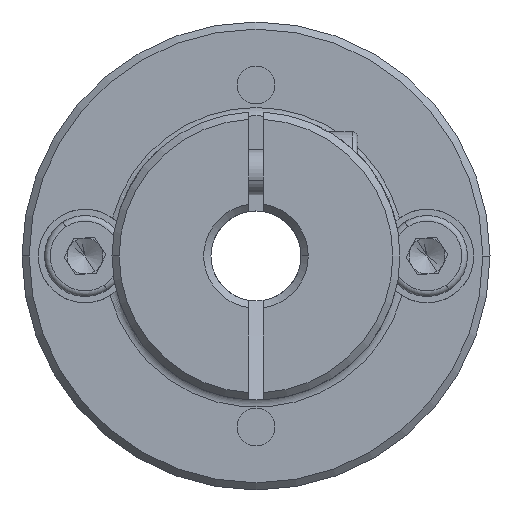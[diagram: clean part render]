
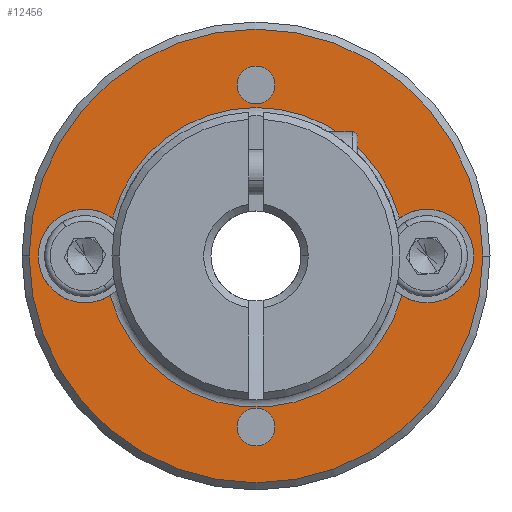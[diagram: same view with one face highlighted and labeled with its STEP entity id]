
A CAD part, front view. The second image highlights one B-rep face of the part: STEP entity #12456.
In plain terms, the highlighted planar face has unit normal (0, -1, 0).
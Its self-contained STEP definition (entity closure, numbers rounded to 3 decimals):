
#128 = EDGE_CURVE ( 'NONE', #3016, #7288, #11782, .T. ) ;
#269 = DIRECTION ( 'NONE',  ( 1., 0., 0. ) ) ;
#395 = DIRECTION ( 'NONE',  ( 0., -1., 0. ) ) ;
#399 = DIRECTION ( 'NONE',  ( 0., 1., 0. ) ) ;
#538 = CARTESIAN_POINT ( 'NONE',  ( 5.078, -8.355, 23.804 ) ) ;
#553 = EDGE_LOOP ( 'NONE', ( #15900, #5803 ) ) ;
#908 = CARTESIAN_POINT ( 'NONE',  ( -4.08, -8.355, 16.5 ) ) ;
#1057 = DIRECTION ( 'NONE',  ( 0., 1., 0. ) ) ;
#1079 = DIRECTION ( 'NONE',  ( 1., 0., 0. ) ) ;
#1279 = ORIENTED_EDGE ( 'NONE', *, *, #15649, .T. ) ;
#1469 = EDGE_CURVE ( 'NONE', #17752, #6324, #15438, .T. ) ;
#1863 = VERTEX_POINT ( 'NONE', #15807 ) ;
#1932 = ORIENTED_EDGE ( 'NONE', *, *, #6646, .T. ) ;
#2047 = DIRECTION ( 'NONE',  ( 0., 1., 0. ) ) ;
#2159 = VERTEX_POINT ( 'NONE', #538 ) ;
#2248 = CARTESIAN_POINT ( 'NONE',  ( 9.07, -8.355, 26. ) ) ;
#2447 = CARTESIAN_POINT ( 'NONE',  ( -4.08, -8.355, 35.5 ) ) ;
#2778 = FACE_BOUND ( 'NONE', #15605, .T. ) ;
#2877 = EDGE_LOOP ( 'NONE', ( #1279, #6520 ) ) ;
#2989 = DIRECTION ( 'NONE',  ( 1., 0., 0. ) ) ;
#3016 = VERTEX_POINT ( 'NONE', #11569 ) ;
#3415 = AXIS2_PLACEMENT_3D ( 'NONE', #5483, #6915, #14239 ) ;
#3435 = CARTESIAN_POINT ( 'NONE',  ( -3.03, -8.355, 26. ) ) ;
#3475 = AXIS2_PLACEMENT_3D ( 'NONE', #9654, #2047, #12585 ) ;
#3586 = CARTESIAN_POINT ( 'NONE',  ( 9.57, -8.355, 26. ) ) ;
#3635 = DIRECTION ( 'NONE',  ( 1., 0., 0. ) ) ;
#3686 = CARTESIAN_POINT ( 'NONE',  ( -15.63, -8.355, 26. ) ) ;
#4196 = VERTEX_POINT ( 'NONE', #3686 ) ;
#4202 = CARTESIAN_POINT ( 'NONE',  ( 6.47, -8.355, 26. ) ) ;
#4259 = CARTESIAN_POINT ( 'NONE',  ( -3.03, -8.355, 26. ) ) ;
#4297 = ORIENTED_EDGE ( 'NONE', *, *, #8902, .T. ) ;
#4447 = CIRCLE ( 'NONE', #3415, 1.05 ) ;
#4682 = VERTEX_POINT ( 'NONE', #3586 ) ;
#5170 = DIRECTION ( 'NONE',  ( 0., 1., 0. ) ) ;
#5330 = CARTESIAN_POINT ( 'NONE',  ( -3.03, -8.355, 26. ) ) ;
#5424 = EDGE_CURVE ( 'NONE', #16108, #17741, #4447, .T. ) ;
#5446 = DIRECTION ( 'NONE',  ( 1., 0., 0. ) ) ;
#5483 = CARTESIAN_POINT ( 'NONE',  ( -3.03, -8.355, 35.5 ) ) ;
#5562 = DIRECTION ( 'NONE',  ( 0., 1., 0. ) ) ;
#5729 = DIRECTION ( 'NONE',  ( 1., 0., 0. ) ) ;
#5750 = CARTESIAN_POINT ( 'NONE',  ( 6.47, -8.355, 26. ) ) ;
#5781 = DIRECTION ( 'NONE',  ( 0., 1., 0. ) ) ;
#5803 = ORIENTED_EDGE ( 'NONE', *, *, #18512, .T. ) ;
#6041 = AXIS2_PLACEMENT_3D ( 'NONE', #11081, #5170, #3635 ) ;
#6104 = ORIENTED_EDGE ( 'NONE', *, *, #1469, .T. ) ;
#6324 = VERTEX_POINT ( 'NONE', #2248 ) ;
#6520 = ORIENTED_EDGE ( 'NONE', *, *, #11391, .T. ) ;
#6646 = EDGE_CURVE ( 'NONE', #18264, #17752, #11796, .T. ) ;
#6737 = AXIS2_PLACEMENT_3D ( 'NONE', #4259, #7408, #8676 ) ;
#6915 = DIRECTION ( 'NONE',  ( 0., 1., 0. ) ) ;
#7288 = VERTEX_POINT ( 'NONE', #18268 ) ;
#7408 = DIRECTION ( 'NONE',  ( 0., -1., 0. ) ) ;
#7451 = ORIENTED_EDGE ( 'NONE', *, *, #16086, .T. ) ;
#7595 = AXIS2_PLACEMENT_3D ( 'NONE', #10876, #399, #269 ) ;
#7596 = CIRCLE ( 'NONE', #6041, 8.4 ) ;
#7724 = EDGE_CURVE ( 'NONE', #4196, #4682, #8708, .T. ) ;
#8303 = CARTESIAN_POINT ( 'NONE',  ( 4.944, -8.355, 28.105 ) ) ;
#8314 = ORIENTED_EDGE ( 'NONE', *, *, #12522, .T. ) ;
#8362 = PLANE ( 'NONE',  #9495 ) ;
#8597 = AXIS2_PLACEMENT_3D ( 'NONE', #5750, #16195, #2989 ) ;
#8676 = DIRECTION ( 'NONE',  ( 1., 0., 0. ) ) ;
#8708 = CIRCLE ( 'NONE', #6737, 12.6 ) ;
#8732 = EDGE_CURVE ( 'NONE', #7288, #18264, #18927, .T. ) ;
#8902 = EDGE_CURVE ( 'NONE', #17741, #16108, #9822, .T. ) ;
#8926 = ORIENTED_EDGE ( 'NONE', *, *, #128, .T. ) ;
#9136 = FACE_BOUND ( 'NONE', #2877, .T. ) ;
#9450 = DIRECTION ( 'NONE',  ( 0., 1., 0. ) ) ;
#9495 = AXIS2_PLACEMENT_3D ( 'NONE', #5330, #18991, #1079 ) ;
#9654 = CARTESIAN_POINT ( 'NONE',  ( -12.53, -8.355, 26. ) ) ;
#9822 = CIRCLE ( 'NONE', #15876, 1.05 ) ;
#10019 = CARTESIAN_POINT ( 'NONE',  ( -3.03, -8.355, 35.5 ) ) ;
#10096 = EDGE_LOOP ( 'NONE', ( #4297, #11262 ) ) ;
#10735 = DIRECTION ( 'NONE',  ( 1., 0., 0. ) ) ;
#10876 = CARTESIAN_POINT ( 'NONE',  ( -3.03, -8.355, 26. ) ) ;
#11081 = CARTESIAN_POINT ( 'NONE',  ( -3.03, -8.355, 26. ) ) ;
#11262 = ORIENTED_EDGE ( 'NONE', *, *, #5424, .T. ) ;
#11347 = CARTESIAN_POINT ( 'NONE',  ( -3.03, -8.355, 16.5 ) ) ;
#11391 = EDGE_CURVE ( 'NONE', #1863, #11997, #16485, .T. ) ;
#11458 = AXIS2_PLACEMENT_3D ( 'NONE', #3435, #395, #10735 ) ;
#11569 = CARTESIAN_POINT ( 'NONE',  ( -11.138, -8.355, 23.804 ) ) ;
#11782 = CIRCLE ( 'NONE', #13215, 2.6 ) ;
#11796 = CIRCLE ( 'NONE', #7595, 8.247 ) ;
#11997 = VERTEX_POINT ( 'NONE', #908 ) ;
#12456 = ADVANCED_FACE ( 'NONE', ( #12629, #9136, #16586, #2778 ), #8362, .T. ) ;
#12522 = EDGE_CURVE ( 'NONE', #6324, #2159, #18452, .T. ) ;
#12585 = DIRECTION ( 'NONE',  ( 1., 0., 0. ) ) ;
#12629 = FACE_OUTER_BOUND ( 'NONE', #553, .T. ) ;
#12851 = DIRECTION ( 'NONE',  ( 0., 1., 0. ) ) ;
#13215 = AXIS2_PLACEMENT_3D ( 'NONE', #18376, #9450, #13726 ) ;
#13241 = CIRCLE ( 'NONE', #16268, 1.05 ) ;
#13592 = ORIENTED_EDGE ( 'NONE', *, *, #8732, .T. ) ;
#13726 = DIRECTION ( 'NONE',  ( 1., 0., 0. ) ) ;
#14239 = DIRECTION ( 'NONE',  ( 1., 0., 0. ) ) ;
#14452 = DIRECTION ( 'NONE',  ( 1., 0., 0. ) ) ;
#15438 = CIRCLE ( 'NONE', #8597, 2.6 ) ;
#15605 = EDGE_LOOP ( 'NONE', ( #8926, #13592, #1932, #6104, #8314, #7451 ) ) ;
#15649 = EDGE_CURVE ( 'NONE', #11997, #1863, #13241, .T. ) ;
#15807 = CARTESIAN_POINT ( 'NONE',  ( -1.98, -8.355, 16.5 ) ) ;
#15820 = DIRECTION ( 'NONE',  ( 1., 0., 0. ) ) ;
#15876 = AXIS2_PLACEMENT_3D ( 'NONE', #10019, #5562, #5446 ) ;
#15900 = ORIENTED_EDGE ( 'NONE', *, *, #7724, .T. ) ;
#16086 = EDGE_CURVE ( 'NONE', #2159, #3016, #7596, .T. ) ;
#16108 = VERTEX_POINT ( 'NONE', #18445 ) ;
#16195 = DIRECTION ( 'NONE',  ( 0., 1., 0. ) ) ;
#16266 = CARTESIAN_POINT ( 'NONE',  ( -11.004, -8.355, 28.105 ) ) ;
#16268 = AXIS2_PLACEMENT_3D ( 'NONE', #18855, #12851, #15820 ) ;
#16485 = CIRCLE ( 'NONE', #18466, 1.05 ) ;
#16586 = FACE_BOUND ( 'NONE', #10096, .T. ) ;
#17526 = CIRCLE ( 'NONE', #11458, 12.6 ) ;
#17741 = VERTEX_POINT ( 'NONE', #2447 ) ;
#17752 = VERTEX_POINT ( 'NONE', #8303 ) ;
#18129 = AXIS2_PLACEMENT_3D ( 'NONE', #4202, #5781, #5729 ) ;
#18264 = VERTEX_POINT ( 'NONE', #16266 ) ;
#18268 = CARTESIAN_POINT ( 'NONE',  ( -15.13, -8.355, 26. ) ) ;
#18376 = CARTESIAN_POINT ( 'NONE',  ( -12.53, -8.355, 26. ) ) ;
#18445 = CARTESIAN_POINT ( 'NONE',  ( -1.98, -8.355, 35.5 ) ) ;
#18452 = CIRCLE ( 'NONE', #18129, 2.6 ) ;
#18466 = AXIS2_PLACEMENT_3D ( 'NONE', #11347, #1057, #14452 ) ;
#18512 = EDGE_CURVE ( 'NONE', #4682, #4196, #17526, .T. ) ;
#18855 = CARTESIAN_POINT ( 'NONE',  ( -3.03, -8.355, 16.5 ) ) ;
#18927 = CIRCLE ( 'NONE', #3475, 2.6 ) ;
#18991 = DIRECTION ( 'NONE',  ( 0., -1., 0. ) ) ;
